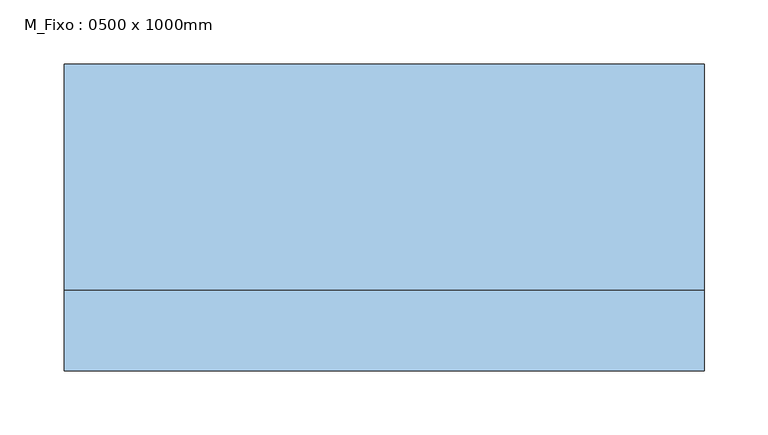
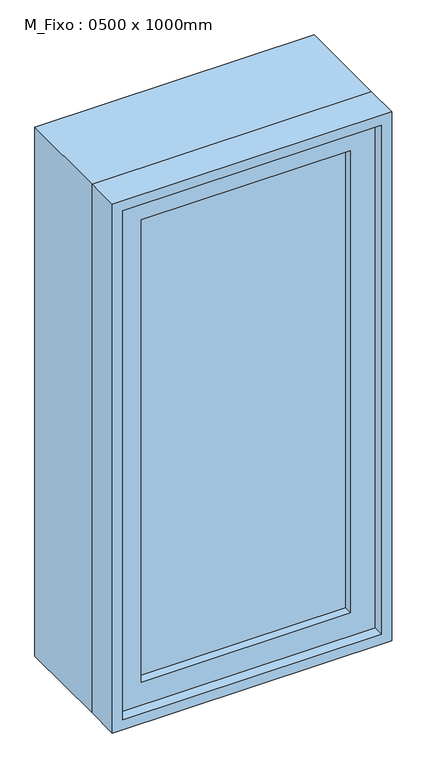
"""IFC4 building model written with IfcOpenShell, lengths in millimetres: window geometry, M_Fixo : 0500 x 1000mm."""

from ifc_helpers import new_model, si_unit, frame, origin, place, context, project, spatial, polyline, outline, extrude, source, transform, mapped, element, save


def m_fixo_0500_x_1000mm_87394ae6(model_context):
    return source(origin(), model_context, "Body", "SweptSolid", [
        extrude(outline(polyline([(-187.0, -98.0), (-187.0, -86.0), (187.0, -86.0), (187.0, -98.0), (-187.0, -98.0)])), frame((0.0, 0.0, 1483.0), z_axis=(0.0, 0.0, 1.0), x_axis=(1.0, 0.0, 0.0)), (0.0, 0.0, 1.0), 874.0),
        extrude(outline(polyline([(2401.0, -231.0), (1439.0, -231.0), (1439.0, 231.0), (2401.0, 231.0), (2401.0, -231.0)]), holes=[polyline([(2357.0, -187.0), (2357.0, 187.0), (1483.0, 187.0), (1483.0, -187.0), (2357.0, -187.0)])]), frame((0.0, -114.0, 0.0), z_axis=(0.0, 1.0, 0.0), x_axis=(0.0, 0.0, 1.0)), (0.0, 0.0, 1.0), 44.0),
        extrude(outline(polyline([(2420.0, -250.0), (1420.0, -250.0), (1420.0, 250.0), (2420.0, 250.0), (2420.0, -250.0)]), holes=[polyline([(2401.0, -231.0), (2401.0, 231.0), (1439.0, 231.0), (1439.0, -231.0), (2401.0, -231.0)])]), frame((0.0, -133.0, 0.0), z_axis=(0.0, 1.0, 0.0), x_axis=(0.0, 0.0, 1.0)), (0.0, 0.0, 1.0), 63.0),
        extrude(outline(polyline([(2420.0, -250.0), (1420.0, -250.0), (1420.0, 250.0), (2420.0, 250.0), (2420.0, -250.0)]), holes=[polyline([(2388.0, -218.0), (2388.0, 218.0), (1452.0, 218.0), (1452.0, -218.0), (2388.0, -218.0)])]), frame((0.0, -70.0, 0.0), z_axis=(0.0, 1.0, 0.0), x_axis=(0.0, 0.0, 1.0)), (0.0, 0.0, 1.0), 177.0),
    ])


if __name__ == "__main__":
    model = new_model("IFC4")
    model_context = context("Model", 3, world=origin())
    ifc_project = project(units=[si_unit("LENGTHUNIT", "METRE", prefix="MILLI")], contexts=[model_context])
    site = spatial("IfcSite", under=ifc_project)
    building = spatial("IfcBuilding", under=site)
    placement = place(None, origin())
    m_fixo_0500_x_1000mm_shape = m_fixo_0500_x_1000mm_87394ae6(model_context)
    element("IfcWindow", 1, ObjectType="M_Fixo : 0500 x 1000mm", at=placement, inside=building, context=model_context, shape_type="MappedRepresentation", body=[
        mapped(m_fixo_0500_x_1000mm_shape, transform((0.0, 0.0, 0.0), x_axis=(1.0, 0.0, 0.0), y_axis=(0.0, 1.0, 0.0), z_axis=(0.0, 0.0, 1.0))),
    ])
    save(model, "model.ifc")
